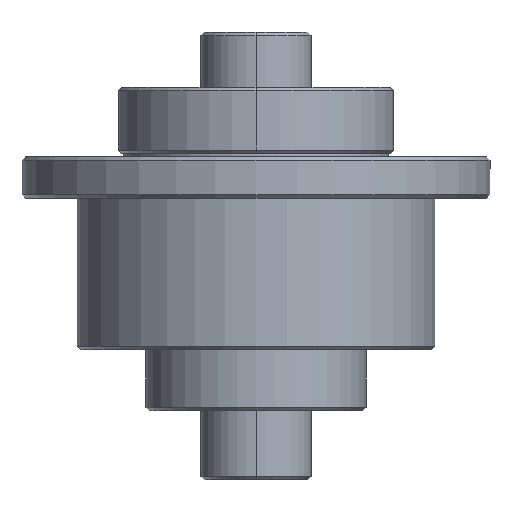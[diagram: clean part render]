
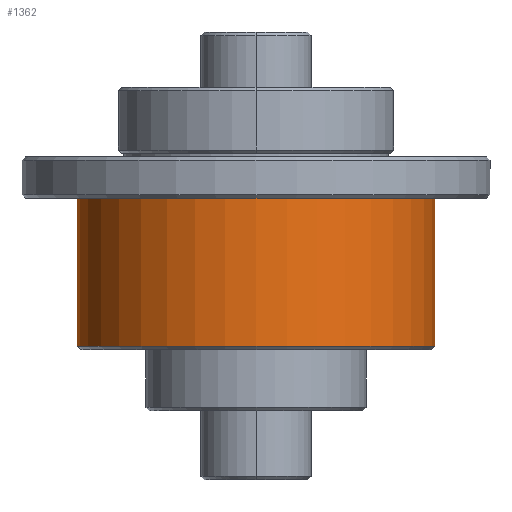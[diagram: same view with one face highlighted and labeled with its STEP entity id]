
A CAD part, left-side view. The second image highlights one B-rep face of the part: STEP entity #1362.
In plain terms, the highlighted cylindrical face has radius 26 mm (diameter 52 mm), a partial arc.
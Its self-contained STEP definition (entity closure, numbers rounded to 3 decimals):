
#35 = CARTESIAN_POINT ( 'NONE',  ( 0., 26., 4. ) ) ;
#109 = DIRECTION ( 'NONE',  ( 0., 0., 1. ) ) ;
#127 = CARTESIAN_POINT ( 'NONE',  ( 0., 0., -35.6 ) ) ;
#189 = ORIENTED_EDGE ( 'NONE', *, *, #1967, .T. ) ;
#241 = CARTESIAN_POINT ( 'NONE',  ( 0., 26., -35.6 ) ) ;
#271 = DIRECTION ( 'NONE',  ( 0., 0., 1. ) ) ;
#354 = LINE ( 'NONE', #35, #828 ) ;
#357 = CIRCLE ( 'NONE', #1813, 26. ) ;
#493 = EDGE_CURVE ( 'NONE', #663, #874, #2113, .T. ) ;
#659 = DIRECTION ( 'NONE',  ( 0., 0., 1. ) ) ;
#663 = VERTEX_POINT ( 'NONE', #241 ) ;
#723 = DIRECTION ( 'NONE',  ( 0., 0., 1. ) ) ;
#827 = CARTESIAN_POINT ( 'NONE',  ( 0., 0., 4. ) ) ;
#828 = VECTOR ( 'NONE', #964, 1000. ) ;
#874 = VERTEX_POINT ( 'NONE', #1134 ) ;
#916 = CYLINDRICAL_SURFACE ( 'NONE', #2080, 26. ) ;
#964 = DIRECTION ( 'NONE',  ( 0., 0., 1. ) ) ;
#1123 = CARTESIAN_POINT ( 'NONE',  ( 0., -26., -14.1 ) ) ;
#1134 = CARTESIAN_POINT ( 'NONE',  ( 0., -26., -35.6 ) ) ;
#1142 = EDGE_CURVE ( 'NONE', #2046, #2084, #357, .T. ) ;
#1216 = EDGE_CURVE ( 'NONE', #663, #2046, #354, .T. ) ;
#1362 = ADVANCED_FACE ( 'NONE', ( #1656 ), #916, .T. ) ;
#1363 = VECTOR ( 'NONE', #271, 1000. ) ;
#1464 = ORIENTED_EDGE ( 'NONE', *, *, #1216, .F. ) ;
#1479 = CARTESIAN_POINT ( 'NONE',  ( 0., 26., -14.1 ) ) ;
#1487 = ORIENTED_EDGE ( 'NONE', *, *, #493, .T. ) ;
#1544 = CARTESIAN_POINT ( 'NONE',  ( 0., -26., 4. ) ) ;
#1548 = DIRECTION ( 'NONE',  ( 0., -1., 0. ) ) ;
#1578 = DIRECTION ( 'NONE',  ( 0., -1., 0. ) ) ;
#1646 = ORIENTED_EDGE ( 'NONE', *, *, #1142, .F. ) ;
#1652 = EDGE_LOOP ( 'NONE', ( #1464, #1487, #189, #1646 ) ) ;
#1656 = FACE_OUTER_BOUND ( 'NONE', #1652, .T. ) ;
#1802 = CARTESIAN_POINT ( 'NONE',  ( 0., 0., -14.1 ) ) ;
#1813 = AXIS2_PLACEMENT_3D ( 'NONE', #1802, #723, #2013 ) ;
#1967 = EDGE_CURVE ( 'NONE', #874, #2084, #2217, .T. ) ;
#2013 = DIRECTION ( 'NONE',  ( 0., -1., 0. ) ) ;
#2046 = VERTEX_POINT ( 'NONE', #1479 ) ;
#2080 = AXIS2_PLACEMENT_3D ( 'NONE', #827, #659, #1548 ) ;
#2084 = VERTEX_POINT ( 'NONE', #1123 ) ;
#2113 = CIRCLE ( 'NONE', #2304, 26. ) ;
#2217 = LINE ( 'NONE', #1544, #1363 ) ;
#2304 = AXIS2_PLACEMENT_3D ( 'NONE', #127, #109, #1578 ) ;
